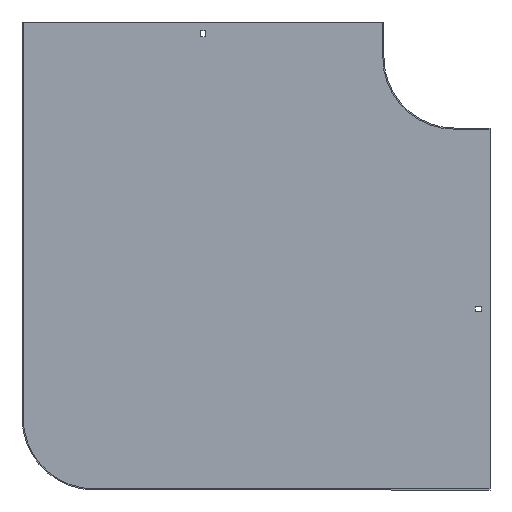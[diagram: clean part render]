
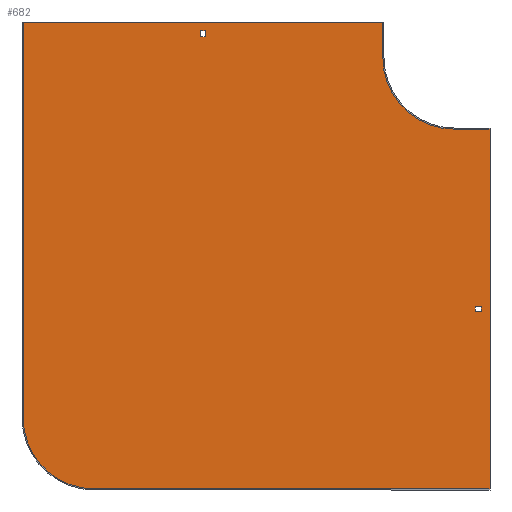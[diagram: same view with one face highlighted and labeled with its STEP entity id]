
A CAD part, front view. The second image highlights one B-rep face of the part: STEP entity #682.
In plain terms, the highlighted planar face has unit normal (0, -1, 0).
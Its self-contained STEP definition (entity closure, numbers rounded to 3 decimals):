
#6 = ORIENTED_EDGE ( 'NONE', *, *, #608, .F. ) ;
#8 = CARTESIAN_POINT ( 'NONE',  ( 50., -1.5, -100. ) ) ;
#19 = LINE ( 'NONE', #287, #109 ) ;
#29 = CARTESIAN_POINT ( 'NONE',  ( -604., -1.5, -504. ) ) ;
#38 = VERTEX_POINT ( 'NONE', #858 ) ;
#49 = ORIENTED_EDGE ( 'NONE', *, *, #622, .F. ) ;
#59 = EDGE_LOOP ( 'NONE', ( #358, #522, #49, #6 ) ) ;
#62 = LINE ( 'NONE', #535, #810 ) ;
#70 = EDGE_CURVE ( 'NONE', #676, #713, #732, .T. ) ;
#73 = CARTESIAN_POINT ( 'NONE',  ( -604., -1.5, 50. ) ) ;
#82 = DIRECTION ( 'NONE',  ( 0., -1., 0. ) ) ;
#96 = VERTEX_POINT ( 'NONE', #659 ) ;
#99 = DIRECTION ( 'NONE',  ( 0., 1., 0. ) ) ;
#104 = CARTESIAN_POINT ( 'NONE',  ( -355.25, -1.5, 0. ) ) ;
#107 = PLANE ( 'NONE',  #482 ) ;
#109 = VECTOR ( 'NONE', #560, 1000. ) ;
#114 = EDGE_CURVE ( 'NONE', #558, #96, #675, .T. ) ;
#121 = VERTEX_POINT ( 'NONE', #599 ) ;
#123 = EDGE_LOOP ( 'NONE', ( #426, #407, #432, #746 ) ) ;
#125 = DIRECTION ( 'NONE',  ( -1., 0., 0. ) ) ;
#133 = EDGE_CURVE ( 'NONE', #446, #505, #255, .T. ) ;
#138 = DIRECTION ( 'NONE',  ( 1., 0., 0. ) ) ;
#141 = VECTOR ( 'NONE', #125, 1000. ) ;
#149 = LINE ( 'NONE', #835, #316 ) ;
#153 = VECTOR ( 'NONE', #551, 1000. ) ;
#165 = CARTESIAN_POINT ( 'NONE',  ( 0., -1.5, 0. ) ) ;
#171 = DIRECTION ( 'NONE',  ( 0., -1., 0. ) ) ;
#185 = CARTESIAN_POINT ( 'NONE',  ( 38., -1.5, 0. ) ) ;
#186 = DIRECTION ( 'NONE',  ( 1., 0., 0. ) ) ;
#198 = CARTESIAN_POINT ( 'NONE',  ( -348.75, -1.5, 38. ) ) ;
#206 = ORIENTED_EDGE ( 'NONE', *, *, #550, .F. ) ;
#212 = DIRECTION ( 'NONE',  ( 1., 0., 0. ) ) ;
#215 = VERTEX_POINT ( 'NONE', #557 ) ;
#221 = AXIS2_PLACEMENT_3D ( 'NONE', #165, #82, #831 ) ;
#223 = EDGE_CURVE ( 'NONE', #363, #446, #19, .T. ) ;
#229 = LINE ( 'NONE', #29, #678 ) ;
#234 = CARTESIAN_POINT ( 'NONE',  ( 38., -1.5, -355.25 ) ) ;
#235 = VECTOR ( 'NONE', #563, 1000. ) ;
#236 = VECTOR ( 'NONE', #586, 1000. ) ;
#244 = CARTESIAN_POINT ( 'NONE',  ( 29., -1.5, 0. ) ) ;
#249 = ORIENTED_EDGE ( 'NONE', *, *, #254, .F. ) ;
#254 = EDGE_CURVE ( 'NONE', #215, #38, #453, .T. ) ;
#255 = LINE ( 'NONE', #684, #235 ) ;
#280 = AXIS2_PLACEMENT_3D ( 'NONE', #441, #99, #773 ) ;
#287 = CARTESIAN_POINT ( 'NONE',  ( -605.5, -1.5, 50. ) ) ;
#289 = EDGE_CURVE ( 'NONE', #690, #676, #521, .T. ) ;
#301 = CARTESIAN_POINT ( 'NONE',  ( 0., -1.5, -348.75 ) ) ;
#313 = ORIENTED_EDGE ( 'NONE', *, *, #321, .F. ) ;
#316 = VECTOR ( 'NONE', #702, 1000. ) ;
#317 = LINE ( 'NONE', #656, #141 ) ;
#321 = EDGE_CURVE ( 'NONE', #462, #215, #317, .T. ) ;
#326 = DIRECTION ( 'NONE',  ( 0., 0., 1. ) ) ;
#347 = CARTESIAN_POINT ( 'NONE',  ( 0., -1.5, 29. ) ) ;
#358 = ORIENTED_EDGE ( 'NONE', *, *, #768, .F. ) ;
#363 = VERTEX_POINT ( 'NONE', #73 ) ;
#374 = DIRECTION ( 'NONE',  ( 0., 0., 1. ) ) ;
#392 = CARTESIAN_POINT ( 'NONE',  ( -355.25, -1.5, 38. ) ) ;
#399 = CARTESIAN_POINT ( 'NONE',  ( -348.75, -1.5, 0. ) ) ;
#407 = ORIENTED_EDGE ( 'NONE', *, *, #668, .T. ) ;
#408 = VECTOR ( 'NONE', #374, 1000. ) ;
#416 = LINE ( 'NONE', #347, #153 ) ;
#421 = CARTESIAN_POINT ( 'NONE',  ( 50., -1.5, -604. ) ) ;
#426 = ORIENTED_EDGE ( 'NONE', *, *, #70, .T. ) ;
#432 = ORIENTED_EDGE ( 'NONE', *, *, #526, .T. ) ;
#441 = CARTESIAN_POINT ( 'NONE',  ( -504., -1.5, -504. ) ) ;
#446 = VERTEX_POINT ( 'NONE', #683 ) ;
#449 = FACE_OUTER_BOUND ( 'NONE', #665, .T. ) ;
#453 = CIRCLE ( 'NONE', #280, 100. ) ;
#454 = DIRECTION ( 'NONE',  ( 0., 0., -1. ) ) ;
#462 = VERTEX_POINT ( 'NONE', #421 ) ;
#470 = CARTESIAN_POINT ( 'NONE',  ( 0., -1.5, -355.25 ) ) ;
#474 = CARTESIAN_POINT ( 'NONE',  ( 0., -1.5, 38. ) ) ;
#480 = VECTOR ( 'NONE', #138, 1000. ) ;
#482 = AXIS2_PLACEMENT_3D ( 'NONE', #527, #171, #454 ) ;
#489 = EDGE_CURVE ( 'NONE', #505, #121, #537, .T. ) ;
#497 = VERTEX_POINT ( 'NONE', #8 ) ;
#499 = VECTOR ( 'NONE', #517, 1000. ) ;
#504 = DIRECTION ( 'NONE',  ( 0., 0., 1. ) ) ;
#505 = VERTEX_POINT ( 'NONE', #814 ) ;
#510 = EDGE_CURVE ( 'NONE', #38, #363, #229, .T. ) ;
#517 = DIRECTION ( 'NONE',  ( 0., 0., -1. ) ) ;
#520 = VECTOR ( 'NONE', #186, 1000. ) ;
#521 = LINE ( 'NONE', #104, #408 ) ;
#522 = ORIENTED_EDGE ( 'NONE', *, *, #114, .F. ) ;
#526 = EDGE_CURVE ( 'NONE', #618, #690, #416, .T. ) ;
#527 = CARTESIAN_POINT ( 'NONE',  ( 0., -1.5, 0. ) ) ;
#535 = CARTESIAN_POINT ( 'NONE',  ( 0., -1.5, -100. ) ) ;
#537 = CIRCLE ( 'NONE', #221, 100. ) ;
#540 = ORIENTED_EDGE ( 'NONE', *, *, #510, .F. ) ;
#550 = EDGE_CURVE ( 'NONE', #497, #462, #149, .T. ) ;
#551 = DIRECTION ( 'NONE',  ( -1., 0., 0. ) ) ;
#557 = CARTESIAN_POINT ( 'NONE',  ( -504., -1.5, -604. ) ) ;
#558 = VERTEX_POINT ( 'NONE', #234 ) ;
#560 = DIRECTION ( 'NONE',  ( 1., 0., 0. ) ) ;
#563 = DIRECTION ( 'NONE',  ( 0., 0., -1. ) ) ;
#584 = ORIENTED_EDGE ( 'NONE', *, *, #133, .F. ) ;
#586 = DIRECTION ( 'NONE',  ( -1., 0., 0. ) ) ;
#599 = CARTESIAN_POINT ( 'NONE',  ( 0., -1.5, -100. ) ) ;
#608 = EDGE_CURVE ( 'NONE', #825, #859, #650, .T. ) ;
#618 = VERTEX_POINT ( 'NONE', #776 ) ;
#622 = EDGE_CURVE ( 'NONE', #859, #558, #662, .T. ) ;
#634 = VECTOR ( 'NONE', #849, 1000. ) ;
#647 = FACE_BOUND ( 'NONE', #59, .T. ) ;
#649 = LINE ( 'NONE', #301, #236 ) ;
#650 = LINE ( 'NONE', #244, #499 ) ;
#656 = CARTESIAN_POINT ( 'NONE',  ( 50., -1.5, -604. ) ) ;
#659 = CARTESIAN_POINT ( 'NONE',  ( 38., -1.5, -348.75 ) ) ;
#662 = LINE ( 'NONE', #470, #520 ) ;
#665 = EDGE_LOOP ( 'NONE', ( #689, #540, #249, #313, #206, #842, #812, #584 ) ) ;
#668 = EDGE_CURVE ( 'NONE', #713, #618, #855, .T. ) ;
#675 = LINE ( 'NONE', #185, #809 ) ;
#676 = VERTEX_POINT ( 'NONE', #392 ) ;
#678 = VECTOR ( 'NONE', #504, 1000. ) ;
#682 = ADVANCED_FACE ( 'NONE', ( #647, #449, #715 ), #107, .T. ) ;
#683 = CARTESIAN_POINT ( 'NONE',  ( -100., -1.5, 50. ) ) ;
#684 = CARTESIAN_POINT ( 'NONE',  ( -100., -1.5, 50. ) ) ;
#689 = ORIENTED_EDGE ( 'NONE', *, *, #223, .F. ) ;
#690 = VERTEX_POINT ( 'NONE', #723 ) ;
#702 = DIRECTION ( 'NONE',  ( 0., 0., -1. ) ) ;
#713 = VERTEX_POINT ( 'NONE', #198 ) ;
#715 = FACE_BOUND ( 'NONE', #123, .T. ) ;
#723 = CARTESIAN_POINT ( 'NONE',  ( -355.25, -1.5, 29. ) ) ;
#727 = EDGE_CURVE ( 'NONE', #121, #497, #62, .T. ) ;
#732 = LINE ( 'NONE', #474, #480 ) ;
#746 = ORIENTED_EDGE ( 'NONE', *, *, #289, .T. ) ;
#768 = EDGE_CURVE ( 'NONE', #96, #825, #649, .T. ) ;
#773 = DIRECTION ( 'NONE',  ( 0., 0., -1. ) ) ;
#775 = CARTESIAN_POINT ( 'NONE',  ( 29., -1.5, -355.25 ) ) ;
#776 = CARTESIAN_POINT ( 'NONE',  ( -348.75, -1.5, 29. ) ) ;
#809 = VECTOR ( 'NONE', #326, 1000. ) ;
#810 = VECTOR ( 'NONE', #212, 1000. ) ;
#812 = ORIENTED_EDGE ( 'NONE', *, *, #489, .F. ) ;
#814 = CARTESIAN_POINT ( 'NONE',  ( -100., -1.5, 0. ) ) ;
#825 = VERTEX_POINT ( 'NONE', #838 ) ;
#831 = DIRECTION ( 'NONE',  ( 0., 0., -1. ) ) ;
#835 = CARTESIAN_POINT ( 'NONE',  ( 50., -1.5, -98.5 ) ) ;
#838 = CARTESIAN_POINT ( 'NONE',  ( 29., -1.5, -348.75 ) ) ;
#842 = ORIENTED_EDGE ( 'NONE', *, *, #727, .F. ) ;
#849 = DIRECTION ( 'NONE',  ( 0., 0., -1. ) ) ;
#855 = LINE ( 'NONE', #399, #634 ) ;
#858 = CARTESIAN_POINT ( 'NONE',  ( -604., -1.5, -504. ) ) ;
#859 = VERTEX_POINT ( 'NONE', #775 ) ;
